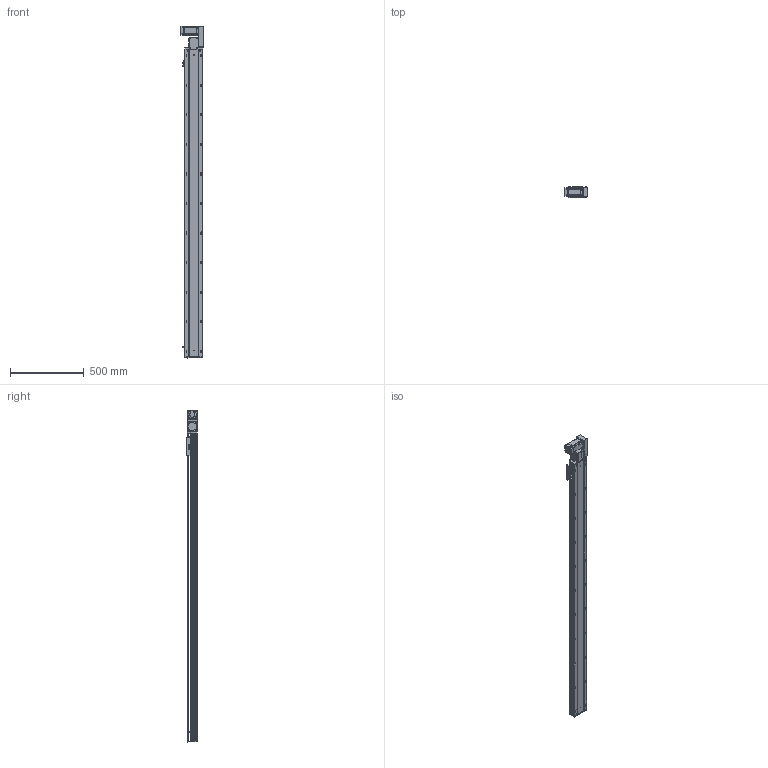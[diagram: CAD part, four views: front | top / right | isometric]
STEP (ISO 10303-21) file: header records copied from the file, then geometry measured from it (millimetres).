
FILE_DESCRIPTION (( 'STEP AP203' ), '1' );
FILE_NAME ('RY120-T-300-RK.SLDASM_1850.step', '2021-03-01T03:55:06', ( '盈信电脑' ), ( '东莞市道滘镇水果街19号' ), 'SwSTEP 2.0', 'SolidWorks 2012', '' );
FILE_SCHEMA (( 'CONFIG_CONTROL_DESIGN' ));
Products named in the file (17): RY120-T-300-RK.SLDASM_1850; RY120-T主同步轮轴承压盖; RY120-T萇儂假蚾啣; RY120-T萇儂欶; RY120-T蹟翐M4; RY120-T翋肮祭謫裔啣; 滅袉蝶18-10; 15; RY120-T翋肮祭盓傅釱; RY120-T肮祭湍揤踡輸2; 覜茼ん672; RY120外置感应片(140共用）; RY120-T肮祭湍揤踡輸1; RY120肮祭湍臏賑輸; RY120-T-300-RK倰第奻裔啣_1850; RY120-T-300-RK倰第菁釱_1850; RY120綴裔啣
Assembly tree (22 placements, depth 2):
  RY120-T-300-RK.SLDASM_1850
    RY120-T-300-RK倰第菁釱_1850
    RY120-T-300-RK倰第奻裔啣_1850
    RY120肮祭湍臏賑輸
    RY120綴裔啣
    覜茼ん672  x3
    RY120外置感应片(140共用）
    RY120-T肮祭湍揤踡輸1
    RY120-T肮祭湍揤踡輸2
    RY120-T翋肮祭盓傅釱
    滅袉蝶18-10  x2
    RY120-T翋肮祭謫裔啣
    15
    RY120-T萇儂假蚾啣
    RY120-T蹟翐M4  x4
    RY120-T萇儂欶
    RY120-T主同步轮轴承压盖
Bounding box: 155.5 x 73 x 2247.5 mm (x, y, z)
Volume: 5477178.6 mm3; surface area: 2088204.6 mm2
Topology: 23 solids, 23 shells, 3100 faces, 8492 edges, 5418 vertices
Faces by surface type: plane 1456, cylinder 1240, cone 315, bspline 89
Entity records: 99925 total; most frequent: CARTESIAN_POINT 26196, ORIENTED_EDGE 15296, DIRECTION 14394, EDGE_CURVE 7648, VERTEX_POINT 5005, AXIS2_PLACEMENT_3D 4887, LINE 4620, VECTOR 4620
